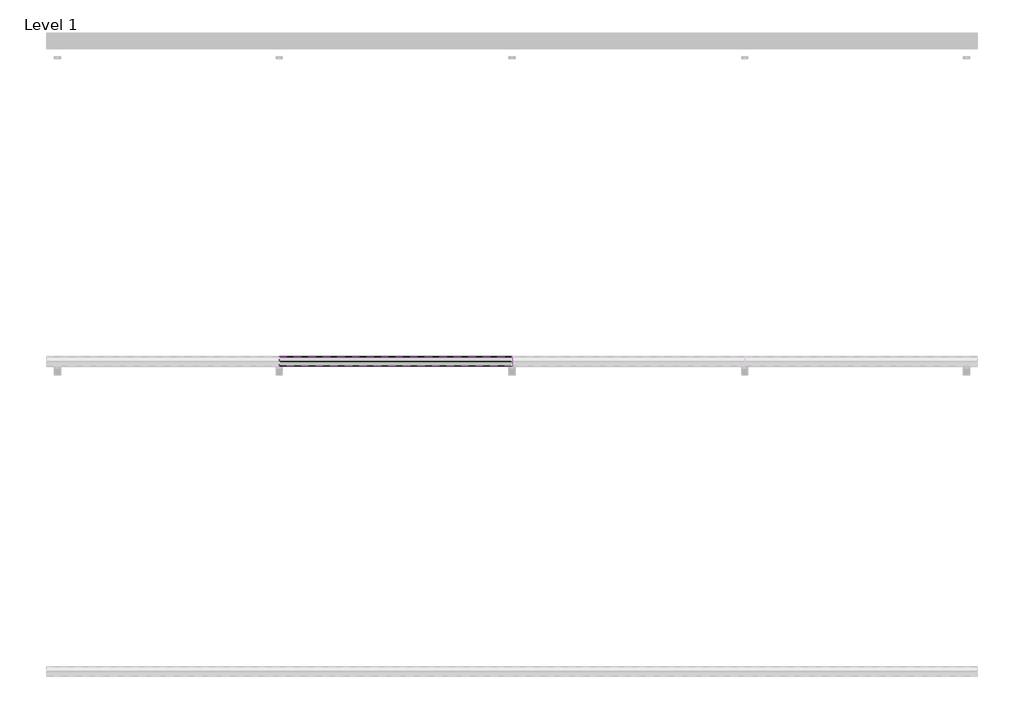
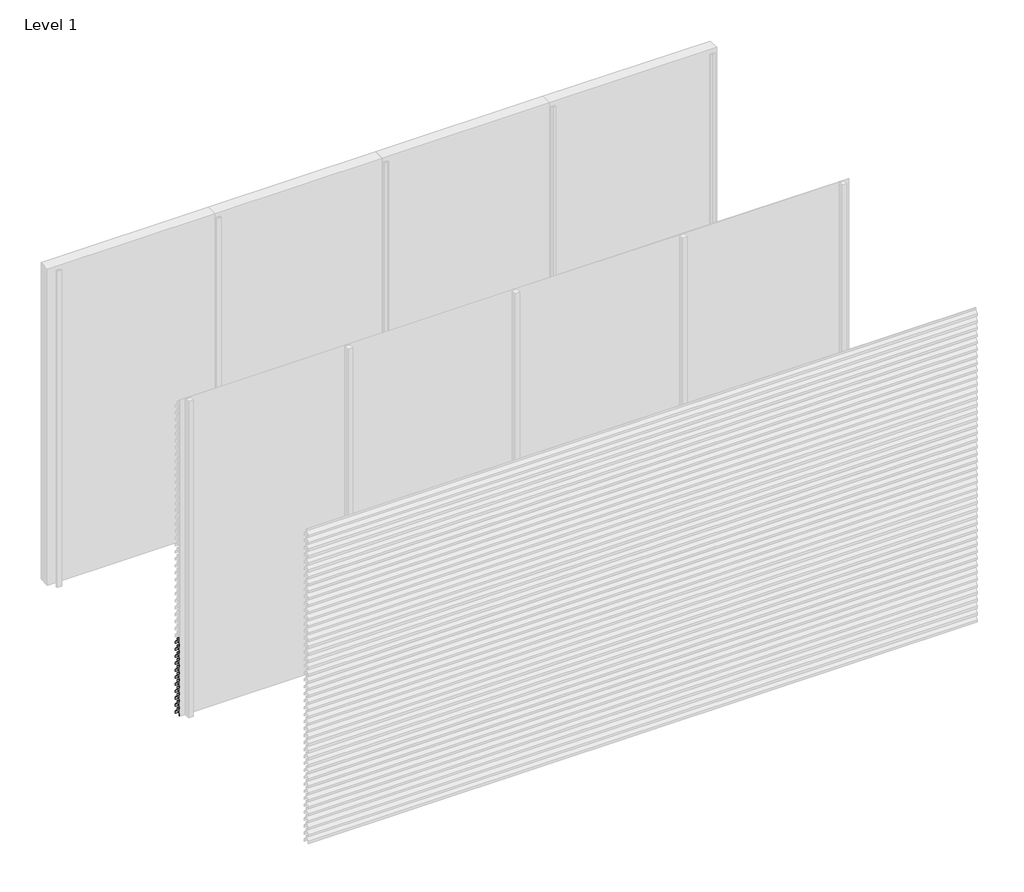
# One storey, part 17 of 35: 70 proxies.
"""IFC4 building model written with IfcOpenShell, lengths in millimetres."""

from ifc_helpers import new_model, si_unit, frame, origin, place, context, project, spatial, polyline, outline, extrude, element, save

model = new_model("IFC4")

# Units and contexts
model_context = context("Model", 3, world=origin())
ifc_project = project(units=[si_unit("LENGTHUNIT", "METRE", prefix="MILLI")], contexts=[model_context])

# Site, building, storey
site = spatial("IfcSite", under=ifc_project)
building = spatial("IfcBuilding", under=site)
storey = spatial("IfcBuildingStorey", under=building, Name="Level 1", Elevation=0.0)

# Proxies
placement = place(None, origin())
element("IfcBuildingElementProxy", 1, Name="Wall Sweeps", at=placement, inside=storey, context=model_context, shape_type="SweptSolid", body=[
    extrude(outline(polyline([(-29936.0, 672.0), (-29936.0, 652.0), (-29937.25, 652.0), (-29937.25, 671.4342979), (-29968.1138939, 704.531772), (-29996.7, 684.4392868), (-29996.7, 665.6629874), (-29998.0, 664.8506572), (-29998.0, 685.1145472), (-29968.537525, 705.823011), (-29968.537525, 726.0), (-29967.1772624, 726.0), (-29967.1772624, 705.4335207), (-29936.0, 672.0)])), frame((0.0, 0.0, 0.0), z_axis=(1.0, 0.0, 0.0), x_axis=(0.0, 1.0, 0.0)), (0.0, 0.0, 1.0), 1500.0),
])
element("IfcBuildingElementProxy", 2, Name="Wall Sweeps", at=placement, inside=storey, context=model_context, shape_type="SweptSolid", body=[
    extrude(outline(polyline([(-29936.0, 606.0), (-29936.0, 586.0), (-29937.25, 586.0), (-29937.25, 605.4342979), (-29968.1138939, 638.531772), (-29996.7, 618.4392868), (-29996.7, 599.6629874), (-29998.0, 598.8506572), (-29998.0, 619.1145472), (-29968.537525, 639.823011), (-29968.537525, 660.0), (-29967.1772624, 660.0), (-29967.1772624, 639.4335207), (-29936.0, 606.0)])), frame((0.0, 0.0, 0.0), z_axis=(1.0, 0.0, 0.0), x_axis=(0.0, 1.0, 0.0)), (0.0, 0.0, 1.0), 1500.0),
])
element("IfcBuildingElementProxy", 3, Name="Wall Sweeps", at=placement, inside=storey, context=model_context, shape_type="SweptSolid", body=[
    extrude(outline(polyline([(-29936.0, 540.0), (-29936.0, 520.0), (-29937.25, 520.0), (-29937.25, 539.4342979), (-29968.1138939, 572.531772), (-29996.7, 552.4392868), (-29996.7, 533.6629874), (-29998.0, 532.8506572), (-29998.0, 553.1145472), (-29968.537525, 573.823011), (-29968.537525, 594.0), (-29967.1772624, 594.0), (-29967.1772624, 573.4335207), (-29936.0, 540.0)])), frame((0.0, 0.0, 0.0), z_axis=(1.0, 0.0, 0.0), x_axis=(0.0, 1.0, 0.0)), (0.0, 0.0, 1.0), 1500.0),
])
element("IfcBuildingElementProxy", 4, Name="Wall Sweeps", at=placement, inside=storey, context=model_context, shape_type="SweptSolid", body=[
    extrude(outline(polyline([(-29936.0, 474.0), (-29936.0, 454.0), (-29937.25, 454.0), (-29937.25, 473.4342979), (-29968.1138939, 506.531772), (-29996.7, 486.4392868), (-29996.7, 467.6629874), (-29998.0, 466.8506572), (-29998.0, 487.1145472), (-29968.537525, 507.823011), (-29968.537525, 528.0), (-29967.1772624, 528.0), (-29967.1772624, 507.4335207), (-29936.0, 474.0)])), frame((0.0, 0.0, 0.0), z_axis=(1.0, 0.0, 0.0), x_axis=(0.0, 1.0, 0.0)), (0.0, 0.0, 1.0), 1500.0),
])
element("IfcBuildingElementProxy", 5, Name="Wall Sweeps", at=placement, inside=storey, context=model_context, shape_type="SweptSolid", body=[
    extrude(outline(polyline([(-29936.0, 408.0), (-29936.0, 388.0), (-29937.25, 388.0), (-29937.25, 407.4342979), (-29968.1138939, 440.531772), (-29996.7, 420.4392868), (-29996.7, 401.6629874), (-29998.0, 400.8506572), (-29998.0, 421.1145472), (-29968.537525, 441.823011), (-29968.537525, 462.0), (-29967.1772624, 462.0), (-29967.1772624, 441.4335207), (-29936.0, 408.0)])), frame((0.0, 0.0, 0.0), z_axis=(1.0, 0.0, 0.0), x_axis=(0.0, 1.0, 0.0)), (0.0, 0.0, 1.0), 1500.0),
])
element("IfcBuildingElementProxy", 6, Name="Wall Sweeps", at=placement, inside=storey, context=model_context, shape_type="SweptSolid", body=[
    extrude(outline(polyline([(-29936.0, 342.0), (-29936.0, 322.0), (-29937.25, 322.0), (-29937.25, 341.4342979), (-29968.1138939, 374.531772), (-29996.7, 354.4392868), (-29996.7, 335.6629874), (-29998.0, 334.8506572), (-29998.0, 355.1145472), (-29968.537525, 375.823011), (-29968.537525, 396.0), (-29967.1772624, 396.0), (-29967.1772624, 375.4335207), (-29936.0, 342.0)])), frame((0.0, 0.0, 0.0), z_axis=(1.0, 0.0, 0.0), x_axis=(0.0, 1.0, 0.0)), (0.0, 0.0, 1.0), 1500.0),
])
element("IfcBuildingElementProxy", 7, Name="Wall Sweeps", at=placement, inside=storey, context=model_context, shape_type="SweptSolid", body=[
    extrude(outline(polyline([(-29936.0, 276.0), (-29936.0, 256.0), (-29937.25, 256.0), (-29937.25, 275.4342979), (-29968.1138939, 308.531772), (-29996.7, 288.4392868), (-29996.7, 269.6629874), (-29998.0, 268.8506572), (-29998.0, 289.1145472), (-29968.537525, 309.823011), (-29968.537525, 330.0), (-29967.1772624, 330.0), (-29967.1772624, 309.4335207), (-29936.0, 276.0)])), frame((0.0, 0.0, 0.0), z_axis=(1.0, 0.0, 0.0), x_axis=(0.0, 1.0, 0.0)), (0.0, 0.0, 1.0), 1500.0),
])
element("IfcBuildingElementProxy", 8, Name="Wall Sweeps", at=placement, inside=storey, context=model_context, shape_type="SweptSolid", body=[
    extrude(outline(polyline([(-29936.0, 210.0), (-29936.0, 190.0), (-29937.25, 190.0), (-29937.25, 209.4342979), (-29968.1138939, 242.531772), (-29996.7, 222.4392868), (-29996.7, 203.6629874), (-29998.0, 202.8506572), (-29998.0, 223.1145472), (-29968.537525, 243.823011), (-29968.537525, 264.0), (-29967.1772624, 264.0), (-29967.1772624, 243.4335207), (-29936.0, 210.0)])), frame((0.0, 0.0, 0.0), z_axis=(1.0, 0.0, 0.0), x_axis=(0.0, 1.0, 0.0)), (0.0, 0.0, 1.0), 1500.0),
])
element("IfcBuildingElementProxy", 9, Name="Wall Sweeps", at=placement, inside=storey, context=model_context, shape_type="SweptSolid", body=[
    extrude(outline(polyline([(-29936.0, 144.0), (-29936.0, 124.0), (-29937.25, 124.0), (-29937.25, 143.4342979), (-29968.1138939, 176.531772), (-29996.7, 156.4392868), (-29996.7, 137.6629874), (-29998.0, 136.8506572), (-29998.0, 157.1145472), (-29968.537525, 177.823011), (-29968.537525, 198.0), (-29967.1772624, 198.0), (-29967.1772624, 177.4335207), (-29936.0, 144.0)])), frame((0.0, 0.0, 0.0), z_axis=(1.0, 0.0, 0.0), x_axis=(0.0, 1.0, 0.0)), (0.0, 0.0, 1.0), 1500.0),
])
element("IfcBuildingElementProxy", 10, Name="Wall Sweeps", at=placement, inside=storey, context=model_context, shape_type="SweptSolid", body=[
    extrude(outline(polyline([(-29936.0, 78.0), (-29936.0, 58.0), (-29937.25, 58.0), (-29937.25, 77.4342979), (-29968.1138939, 110.531772), (-29996.7, 90.4392868), (-29996.7, 71.6629874), (-29998.0, 70.8506572), (-29998.0, 91.1145472), (-29968.537525, 111.823011), (-29968.537525, 132.0), (-29967.1772624, 132.0), (-29967.1772624, 111.4335207), (-29936.0, 78.0)])), frame((0.0, 0.0, 0.0), z_axis=(1.0, 0.0, 0.0), x_axis=(0.0, 1.0, 0.0)), (0.0, 0.0, 1.0), 1500.0),
])
element("IfcBuildingElementProxy", 11, Name="Wall Sweeps", at=placement, inside=storey, context=model_context, shape_type="SweptSolid", body=[
    extrude(outline(polyline([(-29936.0, 12.0), (-29936.0, -8.0), (-29937.25, -8.0), (-29937.25, 11.4342979), (-29968.1138939, 44.531772), (-29996.7, 24.4392868), (-29996.7, 5.6629874), (-29998.0, 4.8506572), (-29998.0, 25.1145472), (-29968.537525, 45.823011), (-29968.537525, 66.0), (-29967.1772624, 66.0), (-29967.1772624, 45.4335207), (-29936.0, 12.0)])), frame((0.0, 0.0, 0.0), z_axis=(1.0, 0.0, 0.0), x_axis=(0.0, 1.0, 0.0)), (0.0, 0.0, 1.0), 1500.0),
])
element("IfcBuildingElementProxy", 12, Name="Wall Sweeps", at=placement, inside=storey, context=model_context, shape_type="SweptSolid", body=[
    extrude(outline(polyline([(-29936.0, 2916.0), (-29936.0, 2896.0), (-29937.25, 2896.0), (-29937.25, 2915.4342979), (-29968.1138939, 2948.531772), (-29996.7, 2928.4392868), (-29996.7, 2909.6629874), (-29998.0, 2908.8506572), (-29998.0, 2929.1145472), (-29968.537525, 2949.823011), (-29968.537525, 2970.0), (-29967.1772624, 2970.0), (-29967.1772624, 2949.4335207), (-29936.0, 2916.0)])), frame((1500.0, 0.0, 0.0), z_axis=(1.0, 0.0, 0.0), x_axis=(0.0, 1.0, 0.0)), (0.0, 0.0, 1.0), 1500.0),
])
element("IfcBuildingElementProxy", 13, Name="Wall Sweeps", at=placement, inside=storey, context=model_context, shape_type="SweptSolid", body=[
    extrude(outline(polyline([(-29936.0, 2850.0), (-29936.0, 2830.0), (-29937.25, 2830.0), (-29937.25, 2849.4342979), (-29968.1138939, 2882.531772), (-29996.7, 2862.4392868), (-29996.7, 2843.6629874), (-29998.0, 2842.8506572), (-29998.0, 2863.1145472), (-29968.537525, 2883.823011), (-29968.537525, 2904.0), (-29967.1772624, 2904.0), (-29967.1772624, 2883.4335207), (-29936.0, 2850.0)])), frame((1500.0, 0.0, 0.0), z_axis=(1.0, 0.0, 0.0), x_axis=(0.0, 1.0, 0.0)), (0.0, 0.0, 1.0), 1500.0),
])
element("IfcBuildingElementProxy", 14, Name="Wall Sweeps", at=placement, inside=storey, context=model_context, shape_type="SweptSolid", body=[
    extrude(outline(polyline([(-29936.0, 2784.0), (-29936.0, 2764.0), (-29937.25, 2764.0), (-29937.25, 2783.4342979), (-29968.1138939, 2816.531772), (-29996.7, 2796.4392868), (-29996.7, 2777.6629874), (-29998.0, 2776.8506572), (-29998.0, 2797.1145472), (-29968.537525, 2817.823011), (-29968.537525, 2838.0), (-29967.1772624, 2838.0), (-29967.1772624, 2817.4335207), (-29936.0, 2784.0)])), frame((1500.0, 0.0, 0.0), z_axis=(1.0, 0.0, 0.0), x_axis=(0.0, 1.0, 0.0)), (0.0, 0.0, 1.0), 1500.0),
])
element("IfcBuildingElementProxy", 15, Name="Wall Sweeps", at=placement, inside=storey, context=model_context, shape_type="SweptSolid", body=[
    extrude(outline(polyline([(-29936.0, 2718.0), (-29936.0, 2698.0), (-29937.25, 2698.0), (-29937.25, 2717.4342979), (-29968.1138939, 2750.531772), (-29996.7, 2730.4392868), (-29996.7, 2711.6629874), (-29998.0, 2710.8506572), (-29998.0, 2731.1145472), (-29968.537525, 2751.823011), (-29968.537525, 2772.0), (-29967.1772624, 2772.0), (-29967.1772624, 2751.4335207), (-29936.0, 2718.0)])), frame((1500.0, 0.0, 0.0), z_axis=(1.0, 0.0, 0.0), x_axis=(0.0, 1.0, 0.0)), (0.0, 0.0, 1.0), 1500.0),
])
element("IfcBuildingElementProxy", 16, Name="Wall Sweeps", at=placement, inside=storey, context=model_context, shape_type="SweptSolid", body=[
    extrude(outline(polyline([(-29936.0, 2652.0), (-29936.0, 2632.0), (-29937.25, 2632.0), (-29937.25, 2651.4342979), (-29968.1138939, 2684.531772), (-29996.7, 2664.4392868), (-29996.7, 2645.6629874), (-29998.0, 2644.8506572), (-29998.0, 2665.1145472), (-29968.537525, 2685.823011), (-29968.537525, 2706.0), (-29967.1772624, 2706.0), (-29967.1772624, 2685.4335207), (-29936.0, 2652.0)])), frame((1500.0, 0.0, 0.0), z_axis=(1.0, 0.0, 0.0), x_axis=(0.0, 1.0, 0.0)), (0.0, 0.0, 1.0), 1500.0),
])
element("IfcBuildingElementProxy", 17, Name="Wall Sweeps", at=placement, inside=storey, context=model_context, shape_type="SweptSolid", body=[
    extrude(outline(polyline([(-29936.0, 2586.0), (-29936.0, 2566.0), (-29937.25, 2566.0), (-29937.25, 2585.4342979), (-29968.1138939, 2618.531772), (-29996.7, 2598.4392868), (-29996.7, 2579.6629874), (-29998.0, 2578.8506572), (-29998.0, 2599.1145472), (-29968.537525, 2619.823011), (-29968.537525, 2640.0), (-29967.1772624, 2640.0), (-29967.1772624, 2619.4335207), (-29936.0, 2586.0)])), frame((1500.0, 0.0, 0.0), z_axis=(1.0, 0.0, 0.0), x_axis=(0.0, 1.0, 0.0)), (0.0, 0.0, 1.0), 1500.0),
])
element("IfcBuildingElementProxy", 18, Name="Wall Sweeps", at=placement, inside=storey, context=model_context, shape_type="SweptSolid", body=[
    extrude(outline(polyline([(-29936.0, 2520.0), (-29936.0, 2500.0), (-29937.25, 2500.0), (-29937.25, 2519.4342979), (-29968.1138939, 2552.531772), (-29996.7, 2532.4392868), (-29996.7, 2513.6629874), (-29998.0, 2512.8506572), (-29998.0, 2533.1145472), (-29968.537525, 2553.823011), (-29968.537525, 2574.0), (-29967.1772624, 2574.0), (-29967.1772624, 2553.4335207), (-29936.0, 2520.0)])), frame((1500.0, 0.0, 0.0), z_axis=(1.0, 0.0, 0.0), x_axis=(0.0, 1.0, 0.0)), (0.0, 0.0, 1.0), 1500.0),
])
element("IfcBuildingElementProxy", 19, Name="Wall Sweeps", at=placement, inside=storey, context=model_context, shape_type="SweptSolid", body=[
    extrude(outline(polyline([(-29936.0, 2454.0), (-29936.0, 2434.0), (-29937.25, 2434.0), (-29937.25, 2453.4342979), (-29968.1138939, 2486.531772), (-29996.7, 2466.4392868), (-29996.7, 2447.6629874), (-29998.0, 2446.8506572), (-29998.0, 2467.1145472), (-29968.537525, 2487.823011), (-29968.537525, 2508.0), (-29967.1772624, 2508.0), (-29967.1772624, 2487.4335207), (-29936.0, 2454.0)])), frame((1500.0, 0.0, 0.0), z_axis=(1.0, 0.0, 0.0), x_axis=(0.0, 1.0, 0.0)), (0.0, 0.0, 1.0), 1500.0),
])
element("IfcBuildingElementProxy", 20, Name="Wall Sweeps", at=placement, inside=storey, context=model_context, shape_type="SweptSolid", body=[
    extrude(outline(polyline([(-29936.0, 2388.0), (-29936.0, 2368.0), (-29937.25, 2368.0), (-29937.25, 2387.4342979), (-29968.1138939, 2420.531772), (-29996.7, 2400.4392868), (-29996.7, 2381.6629874), (-29998.0, 2380.8506572), (-29998.0, 2401.1145472), (-29968.537525, 2421.823011), (-29968.537525, 2442.0), (-29967.1772624, 2442.0), (-29967.1772624, 2421.4335207), (-29936.0, 2388.0)])), frame((1500.0, 0.0, 0.0), z_axis=(1.0, 0.0, 0.0), x_axis=(0.0, 1.0, 0.0)), (0.0, 0.0, 1.0), 1500.0),
])
element("IfcBuildingElementProxy", 21, Name="Wall Sweeps", at=placement, inside=storey, context=model_context, shape_type="SweptSolid", body=[
    extrude(outline(polyline([(-29936.0, 2322.0), (-29936.0, 2302.0), (-29937.25, 2302.0), (-29937.25, 2321.4342979), (-29968.1138939, 2354.531772), (-29996.7, 2334.4392868), (-29996.7, 2315.6629874), (-29998.0, 2314.8506572), (-29998.0, 2335.1145472), (-29968.537525, 2355.823011), (-29968.537525, 2376.0), (-29967.1772624, 2376.0), (-29967.1772624, 2355.4335207), (-29936.0, 2322.0)])), frame((1500.0, 0.0, 0.0), z_axis=(1.0, 0.0, 0.0), x_axis=(0.0, 1.0, 0.0)), (0.0, 0.0, 1.0), 1500.0),
])
element("IfcBuildingElementProxy", 22, Name="Wall Sweeps", at=placement, inside=storey, context=model_context, shape_type="SweptSolid", body=[
    extrude(outline(polyline([(-29936.0, 2256.0), (-29936.0, 2236.0), (-29937.25, 2236.0), (-29937.25, 2255.4342979), (-29968.1138939, 2288.531772), (-29996.7, 2268.4392868), (-29996.7, 2249.6629874), (-29998.0, 2248.8506572), (-29998.0, 2269.1145472), (-29968.537525, 2289.823011), (-29968.537525, 2310.0), (-29967.1772624, 2310.0), (-29967.1772624, 2289.4335207), (-29936.0, 2256.0)])), frame((1500.0, 0.0, 0.0), z_axis=(1.0, 0.0, 0.0), x_axis=(0.0, 1.0, 0.0)), (0.0, 0.0, 1.0), 1500.0),
])
element("IfcBuildingElementProxy", 23, Name="Wall Sweeps", at=placement, inside=storey, context=model_context, shape_type="SweptSolid", body=[
    extrude(outline(polyline([(-29936.0, 2190.0), (-29936.0, 2170.0), (-29937.25, 2170.0), (-29937.25, 2189.4342979), (-29968.1138939, 2222.531772), (-29996.7, 2202.4392868), (-29996.7, 2183.6629874), (-29998.0, 2182.8506572), (-29998.0, 2203.1145472), (-29968.537525, 2223.823011), (-29968.537525, 2244.0), (-29967.1772624, 2244.0), (-29967.1772624, 2223.4335207), (-29936.0, 2190.0)])), frame((1500.0, 0.0, 0.0), z_axis=(1.0, 0.0, 0.0), x_axis=(0.0, 1.0, 0.0)), (0.0, 0.0, 1.0), 1500.0),
])
element("IfcBuildingElementProxy", 24, Name="Wall Sweeps", at=placement, inside=storey, context=model_context, shape_type="SweptSolid", body=[
    extrude(outline(polyline([(-29936.0, 2124.0), (-29936.0, 2104.0), (-29937.25, 2104.0), (-29937.25, 2123.4342979), (-29968.1138939, 2156.531772), (-29996.7, 2136.4392868), (-29996.7, 2117.6629874), (-29998.0, 2116.8506572), (-29998.0, 2137.1145472), (-29968.537525, 2157.823011), (-29968.537525, 2178.0), (-29967.1772624, 2178.0), (-29967.1772624, 2157.4335207), (-29936.0, 2124.0)])), frame((1500.0, 0.0, 0.0), z_axis=(1.0, 0.0, 0.0), x_axis=(0.0, 1.0, 0.0)), (0.0, 0.0, 1.0), 1500.0),
])
element("IfcBuildingElementProxy", 25, Name="Wall Sweeps", at=placement, inside=storey, context=model_context, shape_type="SweptSolid", body=[
    extrude(outline(polyline([(-29936.0, 2058.0), (-29936.0, 2038.0), (-29937.25, 2038.0), (-29937.25, 2057.4342979), (-29968.1138939, 2090.531772), (-29996.7, 2070.4392868), (-29996.7, 2051.6629874), (-29998.0, 2050.8506572), (-29998.0, 2071.1145472), (-29968.537525, 2091.823011), (-29968.537525, 2112.0), (-29967.1772624, 2112.0), (-29967.1772624, 2091.4335207), (-29936.0, 2058.0)])), frame((1500.0, 0.0, 0.0), z_axis=(1.0, 0.0, 0.0), x_axis=(0.0, 1.0, 0.0)), (0.0, 0.0, 1.0), 1500.0),
])
element("IfcBuildingElementProxy", 26, Name="Wall Sweeps", at=placement, inside=storey, context=model_context, shape_type="SweptSolid", body=[
    extrude(outline(polyline([(-29936.0, 1992.0), (-29936.0, 1972.0), (-29937.25, 1972.0), (-29937.25, 1991.4342979), (-29968.1138939, 2024.531772), (-29996.7, 2004.4392868), (-29996.7, 1985.6629874), (-29998.0, 1984.8506572), (-29998.0, 2005.1145472), (-29968.537525, 2025.823011), (-29968.537525, 2046.0), (-29967.1772624, 2046.0), (-29967.1772624, 2025.4335207), (-29936.0, 1992.0)])), frame((1500.0, 0.0, 0.0), z_axis=(1.0, 0.0, 0.0), x_axis=(0.0, 1.0, 0.0)), (0.0, 0.0, 1.0), 1500.0),
])
element("IfcBuildingElementProxy", 27, Name="Wall Sweeps", at=placement, inside=storey, context=model_context, shape_type="SweptSolid", body=[
    extrude(outline(polyline([(-29936.0, 1926.0), (-29936.0, 1906.0), (-29937.25, 1906.0), (-29937.25, 1925.4342979), (-29968.1138939, 1958.531772), (-29996.7, 1938.4392868), (-29996.7, 1919.6629874), (-29998.0, 1918.8506572), (-29998.0, 1939.1145472), (-29968.537525, 1959.823011), (-29968.537525, 1980.0), (-29967.1772624, 1980.0), (-29967.1772624, 1959.4335207), (-29936.0, 1926.0)])), frame((1500.0, 0.0, 0.0), z_axis=(1.0, 0.0, 0.0), x_axis=(0.0, 1.0, 0.0)), (0.0, 0.0, 1.0), 1500.0),
])
element("IfcBuildingElementProxy", 28, Name="Wall Sweeps", at=placement, inside=storey, context=model_context, shape_type="SweptSolid", body=[
    extrude(outline(polyline([(-29936.0, 1860.0), (-29936.0, 1840.0), (-29937.25, 1840.0), (-29937.25, 1859.4342979), (-29968.1138939, 1892.531772), (-29996.7, 1872.4392868), (-29996.7, 1853.6629874), (-29998.0, 1852.8506572), (-29998.0, 1873.1145472), (-29968.537525, 1893.823011), (-29968.537525, 1914.0), (-29967.1772624, 1914.0), (-29967.1772624, 1893.4335207), (-29936.0, 1860.0)])), frame((1500.0, 0.0, 0.0), z_axis=(1.0, 0.0, 0.0), x_axis=(0.0, 1.0, 0.0)), (0.0, 0.0, 1.0), 1500.0),
])
element("IfcBuildingElementProxy", 29, Name="Wall Sweeps", at=placement, inside=storey, context=model_context, shape_type="SweptSolid", body=[
    extrude(outline(polyline([(-29936.0, 1794.0), (-29936.0, 1774.0), (-29937.25, 1774.0), (-29937.25, 1793.4342979), (-29968.1138939, 1826.531772), (-29996.7, 1806.4392868), (-29996.7, 1787.6629874), (-29998.0, 1786.8506572), (-29998.0, 1807.1145472), (-29968.537525, 1827.823011), (-29968.537525, 1848.0), (-29967.1772624, 1848.0), (-29967.1772624, 1827.4335207), (-29936.0, 1794.0)])), frame((1500.0, 0.0, 0.0), z_axis=(1.0, 0.0, 0.0), x_axis=(0.0, 1.0, 0.0)), (0.0, 0.0, 1.0), 1500.0),
])
element("IfcBuildingElementProxy", 30, Name="Wall Sweeps", at=placement, inside=storey, context=model_context, shape_type="SweptSolid", body=[
    extrude(outline(polyline([(-29936.0, 1728.0), (-29936.0, 1708.0), (-29937.25, 1708.0), (-29937.25, 1727.4342979), (-29968.1138939, 1760.531772), (-29996.7, 1740.4392868), (-29996.7, 1721.6629874), (-29998.0, 1720.8506572), (-29998.0, 1741.1145472), (-29968.537525, 1761.823011), (-29968.537525, 1782.0), (-29967.1772624, 1782.0), (-29967.1772624, 1761.4335207), (-29936.0, 1728.0)])), frame((1500.0, 0.0, 0.0), z_axis=(1.0, 0.0, 0.0), x_axis=(0.0, 1.0, 0.0)), (0.0, 0.0, 1.0), 1500.0),
])
element("IfcBuildingElementProxy", 31, Name="Wall Sweeps", at=placement, inside=storey, context=model_context, shape_type="SweptSolid", body=[
    extrude(outline(polyline([(-29936.0, 1662.0), (-29936.0, 1642.0), (-29937.25, 1642.0), (-29937.25, 1661.4342979), (-29968.1138939, 1694.531772), (-29996.7, 1674.4392868), (-29996.7, 1655.6629874), (-29998.0, 1654.8506572), (-29998.0, 1675.1145472), (-29968.537525, 1695.823011), (-29968.537525, 1716.0), (-29967.1772624, 1716.0), (-29967.1772624, 1695.4335207), (-29936.0, 1662.0)])), frame((1500.0, 0.0, 0.0), z_axis=(1.0, 0.0, 0.0), x_axis=(0.0, 1.0, 0.0)), (0.0, 0.0, 1.0), 1500.0),
])
element("IfcBuildingElementProxy", 32, Name="Wall Sweeps", at=placement, inside=storey, context=model_context, shape_type="SweptSolid", body=[
    extrude(outline(polyline([(-29936.0, 1596.0), (-29936.0, 1576.0), (-29937.25, 1576.0), (-29937.25, 1595.4342979), (-29968.1138939, 1628.531772), (-29996.7, 1608.4392868), (-29996.7, 1589.6629874), (-29998.0, 1588.8506572), (-29998.0, 1609.1145472), (-29968.537525, 1629.823011), (-29968.537525, 1650.0), (-29967.1772624, 1650.0), (-29967.1772624, 1629.4335207), (-29936.0, 1596.0)])), frame((1500.0, 0.0, 0.0), z_axis=(1.0, 0.0, 0.0), x_axis=(0.0, 1.0, 0.0)), (0.0, 0.0, 1.0), 1500.0),
])
element("IfcBuildingElementProxy", 33, Name="Wall Sweeps", at=placement, inside=storey, context=model_context, shape_type="SweptSolid", body=[
    extrude(outline(polyline([(-29936.0, 1530.0), (-29936.0, 1510.0), (-29937.25, 1510.0), (-29937.25, 1529.4342979), (-29968.1138939, 1562.531772), (-29996.7, 1542.4392868), (-29996.7, 1523.6629874), (-29998.0, 1522.8506572), (-29998.0, 1543.1145472), (-29968.537525, 1563.823011), (-29968.537525, 1584.0), (-29967.1772624, 1584.0), (-29967.1772624, 1563.4335207), (-29936.0, 1530.0)])), frame((1500.0, 0.0, 0.0), z_axis=(1.0, 0.0, 0.0), x_axis=(0.0, 1.0, 0.0)), (0.0, 0.0, 1.0), 1500.0),
])
element("IfcBuildingElementProxy", 34, Name="Wall Sweeps", at=placement, inside=storey, context=model_context, shape_type="SweptSolid", body=[
    extrude(outline(polyline([(-29936.0, 1464.0), (-29936.0, 1444.0), (-29937.25, 1444.0), (-29937.25, 1463.4342979), (-29968.1138939, 1496.531772), (-29996.7, 1476.4392868), (-29996.7, 1457.6629874), (-29998.0, 1456.8506572), (-29998.0, 1477.1145472), (-29968.537525, 1497.823011), (-29968.537525, 1518.0), (-29967.1772624, 1518.0), (-29967.1772624, 1497.4335207), (-29936.0, 1464.0)])), frame((1500.0, 0.0, 0.0), z_axis=(1.0, 0.0, 0.0), x_axis=(0.0, 1.0, 0.0)), (0.0, 0.0, 1.0), 1500.0),
])
element("IfcBuildingElementProxy", 35, Name="Wall Sweeps", at=placement, inside=storey, context=model_context, shape_type="SweptSolid", body=[
    extrude(outline(polyline([(-29936.0, 1398.0), (-29936.0, 1378.0), (-29937.25, 1378.0), (-29937.25, 1397.4342979), (-29968.1138939, 1430.531772), (-29996.7, 1410.4392868), (-29996.7, 1391.6629874), (-29998.0, 1390.8506572), (-29998.0, 1411.1145472), (-29968.537525, 1431.823011), (-29968.537525, 1452.0), (-29967.1772624, 1452.0), (-29967.1772624, 1431.4335207), (-29936.0, 1398.0)])), frame((1500.0, 0.0, 0.0), z_axis=(1.0, 0.0, 0.0), x_axis=(0.0, 1.0, 0.0)), (0.0, 0.0, 1.0), 1500.0),
])
element("IfcBuildingElementProxy", 36, Name="Wall Sweeps", at=placement, inside=storey, context=model_context, shape_type="SweptSolid", body=[
    extrude(outline(polyline([(-29936.0, 1332.0), (-29936.0, 1312.0), (-29937.25, 1312.0), (-29937.25, 1331.4342979), (-29968.1138939, 1364.531772), (-29996.7, 1344.4392868), (-29996.7, 1325.6629874), (-29998.0, 1324.8506572), (-29998.0, 1345.1145472), (-29968.537525, 1365.823011), (-29968.537525, 1386.0), (-29967.1772624, 1386.0), (-29967.1772624, 1365.4335207), (-29936.0, 1332.0)])), frame((1500.0, 0.0, 0.0), z_axis=(1.0, 0.0, 0.0), x_axis=(0.0, 1.0, 0.0)), (0.0, 0.0, 1.0), 1500.0),
])
element("IfcBuildingElementProxy", 37, Name="Wall Sweeps", at=placement, inside=storey, context=model_context, shape_type="SweptSolid", body=[
    extrude(outline(polyline([(-29936.0, 1266.0), (-29936.0, 1246.0), (-29937.25, 1246.0), (-29937.25, 1265.4342979), (-29968.1138939, 1298.531772), (-29996.7, 1278.4392868), (-29996.7, 1259.6629874), (-29998.0, 1258.8506572), (-29998.0, 1279.1145472), (-29968.537525, 1299.823011), (-29968.537525, 1320.0), (-29967.1772624, 1320.0), (-29967.1772624, 1299.4335207), (-29936.0, 1266.0)])), frame((1500.0, 0.0, 0.0), z_axis=(1.0, 0.0, 0.0), x_axis=(0.0, 1.0, 0.0)), (0.0, 0.0, 1.0), 1500.0),
])
element("IfcBuildingElementProxy", 38, Name="Wall Sweeps", at=placement, inside=storey, context=model_context, shape_type="SweptSolid", body=[
    extrude(outline(polyline([(-29936.0, 1200.0), (-29936.0, 1180.0), (-29937.25, 1180.0), (-29937.25, 1199.4342979), (-29968.1138939, 1232.531772), (-29996.7, 1212.4392868), (-29996.7, 1193.6629874), (-29998.0, 1192.8506572), (-29998.0, 1213.1145472), (-29968.537525, 1233.823011), (-29968.537525, 1254.0), (-29967.1772624, 1254.0), (-29967.1772624, 1233.4335207), (-29936.0, 1200.0)])), frame((1500.0, 0.0, 0.0), z_axis=(1.0, 0.0, 0.0), x_axis=(0.0, 1.0, 0.0)), (0.0, 0.0, 1.0), 1500.0),
])
element("IfcBuildingElementProxy", 39, Name="Wall Sweeps", at=placement, inside=storey, context=model_context, shape_type="SweptSolid", body=[
    extrude(outline(polyline([(-29936.0, 1134.0), (-29936.0, 1114.0), (-29937.25, 1114.0), (-29937.25, 1133.4342979), (-29968.1138939, 1166.531772), (-29996.7, 1146.4392868), (-29996.7, 1127.6629874), (-29998.0, 1126.8506572), (-29998.0, 1147.1145472), (-29968.537525, 1167.823011), (-29968.537525, 1188.0), (-29967.1772624, 1188.0), (-29967.1772624, 1167.4335207), (-29936.0, 1134.0)])), frame((1500.0, 0.0, 0.0), z_axis=(1.0, 0.0, 0.0), x_axis=(0.0, 1.0, 0.0)), (0.0, 0.0, 1.0), 1500.0),
])
element("IfcBuildingElementProxy", 40, Name="Wall Sweeps", at=placement, inside=storey, context=model_context, shape_type="SweptSolid", body=[
    extrude(outline(polyline([(-29936.0, 1068.0), (-29936.0, 1048.0), (-29937.25, 1048.0), (-29937.25, 1067.4342979), (-29968.1138939, 1100.531772), (-29996.7, 1080.4392868), (-29996.7, 1061.6629874), (-29998.0, 1060.8506572), (-29998.0, 1081.1145472), (-29968.537525, 1101.823011), (-29968.537525, 1122.0), (-29967.1772624, 1122.0), (-29967.1772624, 1101.4335207), (-29936.0, 1068.0)])), frame((1500.0, 0.0, 0.0), z_axis=(1.0, 0.0, 0.0), x_axis=(0.0, 1.0, 0.0)), (0.0, 0.0, 1.0), 1500.0),
])
element("IfcBuildingElementProxy", 41, Name="Wall Sweeps", at=placement, inside=storey, context=model_context, shape_type="SweptSolid", body=[
    extrude(outline(polyline([(-29936.0, 1002.0), (-29936.0, 982.0), (-29937.25, 982.0), (-29937.25, 1001.4342979), (-29968.1138939, 1034.531772), (-29996.7, 1014.4392868), (-29996.7, 995.6629874), (-29998.0, 994.8506572), (-29998.0, 1015.1145472), (-29968.537525, 1035.823011), (-29968.537525, 1056.0), (-29967.1772624, 1056.0), (-29967.1772624, 1035.4335207), (-29936.0, 1002.0)])), frame((1500.0, 0.0, 0.0), z_axis=(1.0, 0.0, 0.0), x_axis=(0.0, 1.0, 0.0)), (0.0, 0.0, 1.0), 1500.0),
])
element("IfcBuildingElementProxy", 42, Name="Wall Sweeps", at=placement, inside=storey, context=model_context, shape_type="SweptSolid", body=[
    extrude(outline(polyline([(-29936.0, 936.0), (-29936.0, 916.0), (-29937.25, 916.0), (-29937.25, 935.4342979), (-29968.1138939, 968.531772), (-29996.7, 948.4392868), (-29996.7, 929.6629874), (-29998.0, 928.8506572), (-29998.0, 949.1145472), (-29968.537525, 969.823011), (-29968.537525, 990.0), (-29967.1772624, 990.0), (-29967.1772624, 969.4335207), (-29936.0, 936.0)])), frame((1500.0, 0.0, 0.0), z_axis=(1.0, 0.0, 0.0), x_axis=(0.0, 1.0, 0.0)), (0.0, 0.0, 1.0), 1500.0),
])
element("IfcBuildingElementProxy", 43, Name="Wall Sweeps", at=placement, inside=storey, context=model_context, shape_type="SweptSolid", body=[
    extrude(outline(polyline([(-29936.0, 870.0), (-29936.0, 850.0), (-29937.25, 850.0), (-29937.25, 869.4342979), (-29968.1138939, 902.531772), (-29996.7, 882.4392868), (-29996.7, 863.6629874), (-29998.0, 862.8506572), (-29998.0, 883.1145472), (-29968.537525, 903.823011), (-29968.537525, 924.0), (-29967.1772624, 924.0), (-29967.1772624, 903.4335207), (-29936.0, 870.0)])), frame((1500.0, 0.0, 0.0), z_axis=(1.0, 0.0, 0.0), x_axis=(0.0, 1.0, 0.0)), (0.0, 0.0, 1.0), 1500.0),
])
element("IfcBuildingElementProxy", 44, Name="Wall Sweeps", at=placement, inside=storey, context=model_context, shape_type="SweptSolid", body=[
    extrude(outline(polyline([(-29936.0, 804.0), (-29936.0, 784.0), (-29937.25, 784.0), (-29937.25, 803.4342979), (-29968.1138939, 836.531772), (-29996.7, 816.4392868), (-29996.7, 797.6629874), (-29998.0, 796.8506572), (-29998.0, 817.1145472), (-29968.537525, 837.823011), (-29968.537525, 858.0), (-29967.1772624, 858.0), (-29967.1772624, 837.4335207), (-29936.0, 804.0)])), frame((1500.0, 0.0, 0.0), z_axis=(1.0, 0.0, 0.0), x_axis=(0.0, 1.0, 0.0)), (0.0, 0.0, 1.0), 1500.0),
])
element("IfcBuildingElementProxy", 45, Name="Wall Sweeps", at=placement, inside=storey, context=model_context, shape_type="SweptSolid", body=[
    extrude(outline(polyline([(-29936.0, 738.0), (-29936.0, 718.0), (-29937.25, 718.0), (-29937.25, 737.4342979), (-29968.1138939, 770.531772), (-29996.7, 750.4392868), (-29996.7, 731.6629874), (-29998.0, 730.8506572), (-29998.0, 751.1145472), (-29968.537525, 771.823011), (-29968.537525, 792.0), (-29967.1772624, 792.0), (-29967.1772624, 771.4335207), (-29936.0, 738.0)])), frame((1500.0, 0.0, 0.0), z_axis=(1.0, 0.0, 0.0), x_axis=(0.0, 1.0, 0.0)), (0.0, 0.0, 1.0), 1500.0),
])
element("IfcBuildingElementProxy", 46, Name="Wall Sweeps", at=placement, inside=storey, context=model_context, shape_type="SweptSolid", body=[
    extrude(outline(polyline([(-29936.0, 672.0), (-29936.0, 652.0), (-29937.25, 652.0), (-29937.25, 671.4342979), (-29968.1138939, 704.531772), (-29996.7, 684.4392868), (-29996.7, 665.6629874), (-29998.0, 664.8506572), (-29998.0, 685.1145472), (-29968.537525, 705.823011), (-29968.537525, 726.0), (-29967.1772624, 726.0), (-29967.1772624, 705.4335207), (-29936.0, 672.0)])), frame((1500.0, 0.0, 0.0), z_axis=(1.0, 0.0, 0.0), x_axis=(0.0, 1.0, 0.0)), (0.0, 0.0, 1.0), 1500.0),
])
element("IfcBuildingElementProxy", 47, Name="Wall Sweeps", at=placement, inside=storey, context=model_context, shape_type="SweptSolid", body=[
    extrude(outline(polyline([(-29936.0, 606.0), (-29936.0, 586.0), (-29937.25, 586.0), (-29937.25, 605.4342979), (-29968.1138939, 638.531772), (-29996.7, 618.4392868), (-29996.7, 599.6629874), (-29998.0, 598.8506572), (-29998.0, 619.1145472), (-29968.537525, 639.823011), (-29968.537525, 660.0), (-29967.1772624, 660.0), (-29967.1772624, 639.4335207), (-29936.0, 606.0)])), frame((1500.0, 0.0, 0.0), z_axis=(1.0, 0.0, 0.0), x_axis=(0.0, 1.0, 0.0)), (0.0, 0.0, 1.0), 1500.0),
])
element("IfcBuildingElementProxy", 48, Name="Wall Sweeps", at=placement, inside=storey, context=model_context, shape_type="SweptSolid", body=[
    extrude(outline(polyline([(-29936.0, 540.0), (-29936.0, 520.0), (-29937.25, 520.0), (-29937.25, 539.4342979), (-29968.1138939, 572.531772), (-29996.7, 552.4392868), (-29996.7, 533.6629874), (-29998.0, 532.8506572), (-29998.0, 553.1145472), (-29968.537525, 573.823011), (-29968.537525, 594.0), (-29967.1772624, 594.0), (-29967.1772624, 573.4335207), (-29936.0, 540.0)])), frame((1500.0, 0.0, 0.0), z_axis=(1.0, 0.0, 0.0), x_axis=(0.0, 1.0, 0.0)), (0.0, 0.0, 1.0), 1500.0),
])
element("IfcBuildingElementProxy", 49, Name="Wall Sweeps", at=placement, inside=storey, context=model_context, shape_type="SweptSolid", body=[
    extrude(outline(polyline([(-29936.0, 474.0), (-29936.0, 454.0), (-29937.25, 454.0), (-29937.25, 473.4342979), (-29968.1138939, 506.531772), (-29996.7, 486.4392868), (-29996.7, 467.6629874), (-29998.0, 466.8506572), (-29998.0, 487.1145472), (-29968.537525, 507.823011), (-29968.537525, 528.0), (-29967.1772624, 528.0), (-29967.1772624, 507.4335207), (-29936.0, 474.0)])), frame((1500.0, 0.0, 0.0), z_axis=(1.0, 0.0, 0.0), x_axis=(0.0, 1.0, 0.0)), (0.0, 0.0, 1.0), 1500.0),
])
element("IfcBuildingElementProxy", 50, Name="Wall Sweeps", at=placement, inside=storey, context=model_context, shape_type="SweptSolid", body=[
    extrude(outline(polyline([(-29936.0, 408.0), (-29936.0, 388.0), (-29937.25, 388.0), (-29937.25, 407.4342979), (-29968.1138939, 440.531772), (-29996.7, 420.4392868), (-29996.7, 401.6629874), (-29998.0, 400.8506572), (-29998.0, 421.1145472), (-29968.537525, 441.823011), (-29968.537525, 462.0), (-29967.1772624, 462.0), (-29967.1772624, 441.4335207), (-29936.0, 408.0)])), frame((1500.0, 0.0, 0.0), z_axis=(1.0, 0.0, 0.0), x_axis=(0.0, 1.0, 0.0)), (0.0, 0.0, 1.0), 1500.0),
])
element("IfcBuildingElementProxy", 51, Name="Wall Sweeps", at=placement, inside=storey, context=model_context, shape_type="SweptSolid", body=[
    extrude(outline(polyline([(-29936.0, 342.0), (-29936.0, 322.0), (-29937.25, 322.0), (-29937.25, 341.4342979), (-29968.1138939, 374.531772), (-29996.7, 354.4392868), (-29996.7, 335.6629874), (-29998.0, 334.8506572), (-29998.0, 355.1145472), (-29968.537525, 375.823011), (-29968.537525, 396.0), (-29967.1772624, 396.0), (-29967.1772624, 375.4335207), (-29936.0, 342.0)])), frame((1500.0, 0.0, 0.0), z_axis=(1.0, 0.0, 0.0), x_axis=(0.0, 1.0, 0.0)), (0.0, 0.0, 1.0), 1500.0),
])
element("IfcBuildingElementProxy", 52, Name="Wall Sweeps", at=placement, inside=storey, context=model_context, shape_type="SweptSolid", body=[
    extrude(outline(polyline([(-29936.0, 276.0), (-29936.0, 256.0), (-29937.25, 256.0), (-29937.25, 275.4342979), (-29968.1138939, 308.531772), (-29996.7, 288.4392868), (-29996.7, 269.6629874), (-29998.0, 268.8506572), (-29998.0, 289.1145472), (-29968.537525, 309.823011), (-29968.537525, 330.0), (-29967.1772624, 330.0), (-29967.1772624, 309.4335207), (-29936.0, 276.0)])), frame((1500.0, 0.0, 0.0), z_axis=(1.0, 0.0, 0.0), x_axis=(0.0, 1.0, 0.0)), (0.0, 0.0, 1.0), 1500.0),
])
element("IfcBuildingElementProxy", 53, Name="Wall Sweeps", at=placement, inside=storey, context=model_context, shape_type="SweptSolid", body=[
    extrude(outline(polyline([(-29936.0, 210.0), (-29936.0, 190.0), (-29937.25, 190.0), (-29937.25, 209.4342979), (-29968.1138939, 242.531772), (-29996.7, 222.4392868), (-29996.7, 203.6629874), (-29998.0, 202.8506572), (-29998.0, 223.1145472), (-29968.537525, 243.823011), (-29968.537525, 264.0), (-29967.1772624, 264.0), (-29967.1772624, 243.4335207), (-29936.0, 210.0)])), frame((1500.0, 0.0, 0.0), z_axis=(1.0, 0.0, 0.0), x_axis=(0.0, 1.0, 0.0)), (0.0, 0.0, 1.0), 1500.0),
])
element("IfcBuildingElementProxy", 54, Name="Wall Sweeps", at=placement, inside=storey, context=model_context, shape_type="SweptSolid", body=[
    extrude(outline(polyline([(-29936.0, 144.0), (-29936.0, 124.0), (-29937.25, 124.0), (-29937.25, 143.4342979), (-29968.1138939, 176.531772), (-29996.7, 156.4392868), (-29996.7, 137.6629874), (-29998.0, 136.8506572), (-29998.0, 157.1145472), (-29968.537525, 177.823011), (-29968.537525, 198.0), (-29967.1772624, 198.0), (-29967.1772624, 177.4335207), (-29936.0, 144.0)])), frame((1500.0, 0.0, 0.0), z_axis=(1.0, 0.0, 0.0), x_axis=(0.0, 1.0, 0.0)), (0.0, 0.0, 1.0), 1500.0),
])
element("IfcBuildingElementProxy", 55, Name="Wall Sweeps", at=placement, inside=storey, context=model_context, shape_type="SweptSolid", body=[
    extrude(outline(polyline([(-29936.0, 78.0), (-29936.0, 58.0), (-29937.25, 58.0), (-29937.25, 77.4342979), (-29968.1138939, 110.531772), (-29996.7, 90.4392868), (-29996.7, 71.6629874), (-29998.0, 70.8506572), (-29998.0, 91.1145472), (-29968.537525, 111.823011), (-29968.537525, 132.0), (-29967.1772624, 132.0), (-29967.1772624, 111.4335207), (-29936.0, 78.0)])), frame((1500.0, 0.0, 0.0), z_axis=(1.0, 0.0, 0.0), x_axis=(0.0, 1.0, 0.0)), (0.0, 0.0, 1.0), 1500.0),
])
element("IfcBuildingElementProxy", 56, Name="Wall Sweeps", at=placement, inside=storey, context=model_context, shape_type="SweptSolid", body=[
    extrude(outline(polyline([(-29936.0, 12.0), (-29936.0, -8.0), (-29937.25, -8.0), (-29937.25, 11.4342979), (-29968.1138939, 44.531772), (-29996.7, 24.4392868), (-29996.7, 5.6629874), (-29998.0, 4.8506572), (-29998.0, 25.1145472), (-29968.537525, 45.823011), (-29968.537525, 66.0), (-29967.1772624, 66.0), (-29967.1772624, 45.4335207), (-29936.0, 12.0)])), frame((1500.0, 0.0, 0.0), z_axis=(1.0, 0.0, 0.0), x_axis=(0.0, 1.0, 0.0)), (0.0, 0.0, 1.0), 1500.0),
])
element("IfcBuildingElementProxy", 57, Name="Wall Sweeps", at=placement, inside=storey, context=model_context, shape_type="SweptSolid", body=[
    extrude(outline(polyline([(-29936.0, 2916.0), (-29936.0, 2896.0), (-29937.25, 2896.0), (-29937.25, 2915.4342979), (-29968.1138939, 2948.531772), (-29996.7, 2928.4392868), (-29996.7, 2909.6629874), (-29998.0, 2908.8506572), (-29998.0, 2929.1145472), (-29968.537525, 2949.823011), (-29968.537525, 2970.0), (-29967.1772624, 2970.0), (-29967.1772624, 2949.4335207), (-29936.0, 2916.0)])), frame((3000.0, 0.0, 0.0), z_axis=(1.0, 0.0, 0.0), x_axis=(0.0, 1.0, 0.0)), (0.0, 0.0, 1.0), 1500.0),
])
element("IfcBuildingElementProxy", 58, Name="Wall Sweeps", at=placement, inside=storey, context=model_context, shape_type="SweptSolid", body=[
    extrude(outline(polyline([(-29936.0, 2850.0), (-29936.0, 2830.0), (-29937.25, 2830.0), (-29937.25, 2849.4342979), (-29968.1138939, 2882.531772), (-29996.7, 2862.4392868), (-29996.7, 2843.6629874), (-29998.0, 2842.8506572), (-29998.0, 2863.1145472), (-29968.537525, 2883.823011), (-29968.537525, 2904.0), (-29967.1772624, 2904.0), (-29967.1772624, 2883.4335207), (-29936.0, 2850.0)])), frame((3000.0, 0.0, 0.0), z_axis=(1.0, 0.0, 0.0), x_axis=(0.0, 1.0, 0.0)), (0.0, 0.0, 1.0), 1500.0),
])
element("IfcBuildingElementProxy", 59, Name="Wall Sweeps", at=placement, inside=storey, context=model_context, shape_type="SweptSolid", body=[
    extrude(outline(polyline([(-29936.0, 2784.0), (-29936.0, 2764.0), (-29937.25, 2764.0), (-29937.25, 2783.4342979), (-29968.1138939, 2816.531772), (-29996.7, 2796.4392868), (-29996.7, 2777.6629874), (-29998.0, 2776.8506572), (-29998.0, 2797.1145472), (-29968.537525, 2817.823011), (-29968.537525, 2838.0), (-29967.1772624, 2838.0), (-29967.1772624, 2817.4335207), (-29936.0, 2784.0)])), frame((3000.0, 0.0, 0.0), z_axis=(1.0, 0.0, 0.0), x_axis=(0.0, 1.0, 0.0)), (0.0, 0.0, 1.0), 1500.0),
])
element("IfcBuildingElementProxy", 60, Name="Wall Sweeps", at=placement, inside=storey, context=model_context, shape_type="SweptSolid", body=[
    extrude(outline(polyline([(-29936.0, 2718.0), (-29936.0, 2698.0), (-29937.25, 2698.0), (-29937.25, 2717.4342979), (-29968.1138939, 2750.531772), (-29996.7, 2730.4392868), (-29996.7, 2711.6629874), (-29998.0, 2710.8506572), (-29998.0, 2731.1145472), (-29968.537525, 2751.823011), (-29968.537525, 2772.0), (-29967.1772624, 2772.0), (-29967.1772624, 2751.4335207), (-29936.0, 2718.0)])), frame((3000.0, 0.0, 0.0), z_axis=(1.0, 0.0, 0.0), x_axis=(0.0, 1.0, 0.0)), (0.0, 0.0, 1.0), 1500.0),
])
element("IfcBuildingElementProxy", 61, Name="Wall Sweeps", at=placement, inside=storey, context=model_context, shape_type="SweptSolid", body=[
    extrude(outline(polyline([(-29936.0, 2652.0), (-29936.0, 2632.0), (-29937.25, 2632.0), (-29937.25, 2651.4342979), (-29968.1138939, 2684.531772), (-29996.7, 2664.4392868), (-29996.7, 2645.6629874), (-29998.0, 2644.8506572), (-29998.0, 2665.1145472), (-29968.537525, 2685.823011), (-29968.537525, 2706.0), (-29967.1772624, 2706.0), (-29967.1772624, 2685.4335207), (-29936.0, 2652.0)])), frame((3000.0, 0.0, 0.0), z_axis=(1.0, 0.0, 0.0), x_axis=(0.0, 1.0, 0.0)), (0.0, 0.0, 1.0), 1500.0),
])
element("IfcBuildingElementProxy", 62, Name="Wall Sweeps", at=placement, inside=storey, context=model_context, shape_type="SweptSolid", body=[
    extrude(outline(polyline([(-29936.0, 2586.0), (-29936.0, 2566.0), (-29937.25, 2566.0), (-29937.25, 2585.4342979), (-29968.1138939, 2618.531772), (-29996.7, 2598.4392868), (-29996.7, 2579.6629874), (-29998.0, 2578.8506572), (-29998.0, 2599.1145472), (-29968.537525, 2619.823011), (-29968.537525, 2640.0), (-29967.1772624, 2640.0), (-29967.1772624, 2619.4335207), (-29936.0, 2586.0)])), frame((3000.0, 0.0, 0.0), z_axis=(1.0, 0.0, 0.0), x_axis=(0.0, 1.0, 0.0)), (0.0, 0.0, 1.0), 1500.0),
])
element("IfcBuildingElementProxy", 63, Name="Wall Sweeps", at=placement, inside=storey, context=model_context, shape_type="SweptSolid", body=[
    extrude(outline(polyline([(-29936.0, 2520.0), (-29936.0, 2500.0), (-29937.25, 2500.0), (-29937.25, 2519.4342979), (-29968.1138939, 2552.531772), (-29996.7, 2532.4392868), (-29996.7, 2513.6629874), (-29998.0, 2512.8506572), (-29998.0, 2533.1145472), (-29968.537525, 2553.823011), (-29968.537525, 2574.0), (-29967.1772624, 2574.0), (-29967.1772624, 2553.4335207), (-29936.0, 2520.0)])), frame((3000.0, 0.0, 0.0), z_axis=(1.0, 0.0, 0.0), x_axis=(0.0, 1.0, 0.0)), (0.0, 0.0, 1.0), 1500.0),
])
element("IfcBuildingElementProxy", 64, Name="Wall Sweeps", at=placement, inside=storey, context=model_context, shape_type="SweptSolid", body=[
    extrude(outline(polyline([(-29936.0, 2454.0), (-29936.0, 2434.0), (-29937.25, 2434.0), (-29937.25, 2453.4342979), (-29968.1138939, 2486.531772), (-29996.7, 2466.4392868), (-29996.7, 2447.6629874), (-29998.0, 2446.8506572), (-29998.0, 2467.1145472), (-29968.537525, 2487.823011), (-29968.537525, 2508.0), (-29967.1772624, 2508.0), (-29967.1772624, 2487.4335207), (-29936.0, 2454.0)])), frame((3000.0, 0.0, 0.0), z_axis=(1.0, 0.0, 0.0), x_axis=(0.0, 1.0, 0.0)), (0.0, 0.0, 1.0), 1500.0),
])
element("IfcBuildingElementProxy", 65, Name="Wall Sweeps", at=placement, inside=storey, context=model_context, shape_type="SweptSolid", body=[
    extrude(outline(polyline([(-29936.0, 2388.0), (-29936.0, 2368.0), (-29937.25, 2368.0), (-29937.25, 2387.4342979), (-29968.1138939, 2420.531772), (-29996.7, 2400.4392868), (-29996.7, 2381.6629874), (-29998.0, 2380.8506572), (-29998.0, 2401.1145472), (-29968.537525, 2421.823011), (-29968.537525, 2442.0), (-29967.1772624, 2442.0), (-29967.1772624, 2421.4335207), (-29936.0, 2388.0)])), frame((3000.0, 0.0, 0.0), z_axis=(1.0, 0.0, 0.0), x_axis=(0.0, 1.0, 0.0)), (0.0, 0.0, 1.0), 1500.0),
])
element("IfcBuildingElementProxy", 66, Name="Wall Sweeps", at=placement, inside=storey, context=model_context, shape_type="SweptSolid", body=[
    extrude(outline(polyline([(-29936.0, 2322.0), (-29936.0, 2302.0), (-29937.25, 2302.0), (-29937.25, 2321.4342979), (-29968.1138939, 2354.531772), (-29996.7, 2334.4392868), (-29996.7, 2315.6629874), (-29998.0, 2314.8506572), (-29998.0, 2335.1145472), (-29968.537525, 2355.823011), (-29968.537525, 2376.0), (-29967.1772624, 2376.0), (-29967.1772624, 2355.4335207), (-29936.0, 2322.0)])), frame((3000.0, 0.0, 0.0), z_axis=(1.0, 0.0, 0.0), x_axis=(0.0, 1.0, 0.0)), (0.0, 0.0, 1.0), 1500.0),
])
element("IfcBuildingElementProxy", 67, Name="Wall Sweeps", at=placement, inside=storey, context=model_context, shape_type="SweptSolid", body=[
    extrude(outline(polyline([(-29936.0, 2256.0), (-29936.0, 2236.0), (-29937.25, 2236.0), (-29937.25, 2255.4342979), (-29968.1138939, 2288.531772), (-29996.7, 2268.4392868), (-29996.7, 2249.6629874), (-29998.0, 2248.8506572), (-29998.0, 2269.1145472), (-29968.537525, 2289.823011), (-29968.537525, 2310.0), (-29967.1772624, 2310.0), (-29967.1772624, 2289.4335207), (-29936.0, 2256.0)])), frame((3000.0, 0.0, 0.0), z_axis=(1.0, 0.0, 0.0), x_axis=(0.0, 1.0, 0.0)), (0.0, 0.0, 1.0), 1500.0),
])
element("IfcBuildingElementProxy", 68, Name="Wall Sweeps", at=placement, inside=storey, context=model_context, shape_type="SweptSolid", body=[
    extrude(outline(polyline([(-29936.0, 2190.0), (-29936.0, 2170.0), (-29937.25, 2170.0), (-29937.25, 2189.4342979), (-29968.1138939, 2222.531772), (-29996.7, 2202.4392868), (-29996.7, 2183.6629874), (-29998.0, 2182.8506572), (-29998.0, 2203.1145472), (-29968.537525, 2223.823011), (-29968.537525, 2244.0), (-29967.1772624, 2244.0), (-29967.1772624, 2223.4335207), (-29936.0, 2190.0)])), frame((3000.0, 0.0, 0.0), z_axis=(1.0, 0.0, 0.0), x_axis=(0.0, 1.0, 0.0)), (0.0, 0.0, 1.0), 1500.0),
])
element("IfcBuildingElementProxy", 69, Name="Wall Sweeps", at=placement, inside=storey, context=model_context, shape_type="SweptSolid", body=[
    extrude(outline(polyline([(-29936.0, 2124.0), (-29936.0, 2104.0), (-29937.25, 2104.0), (-29937.25, 2123.4342979), (-29968.1138939, 2156.531772), (-29996.7, 2136.4392868), (-29996.7, 2117.6629874), (-29998.0, 2116.8506572), (-29998.0, 2137.1145472), (-29968.537525, 2157.823011), (-29968.537525, 2178.0), (-29967.1772624, 2178.0), (-29967.1772624, 2157.4335207), (-29936.0, 2124.0)])), frame((3000.0, 0.0, 0.0), z_axis=(1.0, 0.0, 0.0), x_axis=(0.0, 1.0, 0.0)), (0.0, 0.0, 1.0), 1500.0),
])
element("IfcBuildingElementProxy", 70, Name="Wall Sweeps", at=placement, inside=storey, context=model_context, shape_type="SweptSolid", body=[
    extrude(outline(polyline([(-29936.0, 2058.0), (-29936.0, 2038.0), (-29937.25, 2038.0), (-29937.25, 2057.4342979), (-29968.1138939, 2090.531772), (-29996.7, 2070.4392868), (-29996.7, 2051.6629874), (-29998.0, 2050.8506572), (-29998.0, 2071.1145472), (-29968.537525, 2091.823011), (-29968.537525, 2112.0), (-29967.1772624, 2112.0), (-29967.1772624, 2091.4335207), (-29936.0, 2058.0)])), frame((3000.0, 0.0, 0.0), z_axis=(1.0, 0.0, 0.0), x_axis=(0.0, 1.0, 0.0)), (0.0, 0.0, 1.0), 1500.0),
])

save(model, "model.ifc")
